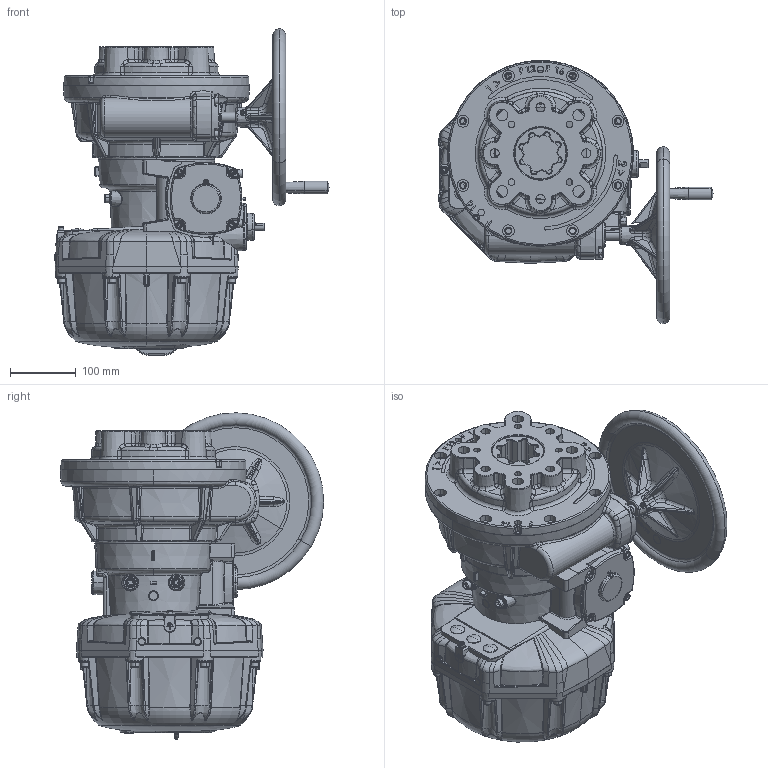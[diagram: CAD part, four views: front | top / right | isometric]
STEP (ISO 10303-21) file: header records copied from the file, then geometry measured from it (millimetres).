
FILE_DESCRIPTION (( 'STEP AP214' ), '1' );
FILE_NAME ('VTX2400.C0B.G00 (faces exterieures).STEP', '2025-09-17T13:10:15', ( '' ), ( '' ), 'SwSTEP 2.0', 'SolidWorks 2023', '' );
FILE_SCHEMA (( 'AUTOMOTIVE_DESIGN' ));
Length unit declared in the file: millimetre
Products named in the file (1): VTX2400.C0B.G00 (faces exterieures)
Bounding box: 418.46 x 401.94 x 498.24 mm (x, y, z)
Surface area: 861610.5 mm2 (no closed solid volume)
Topology: 0 solids, 81 shells, 2717 faces, 8453 edges, 5514 vertices
Faces by surface type: bspline 827, plane 668, cylinder 591, torus 364, cone 224, sphere 43
Entity records: 163965 total; most frequent: CARTESIAN_POINT 68150, ORIENTED_EDGE 13822, DIRECTION 12143, EDGE_CURVE 8370, VERTEX_POINT 5514, AXIS2_PLACEMENT_3D 4800, EDGE_LOOP 2967, CIRCLE 2909
